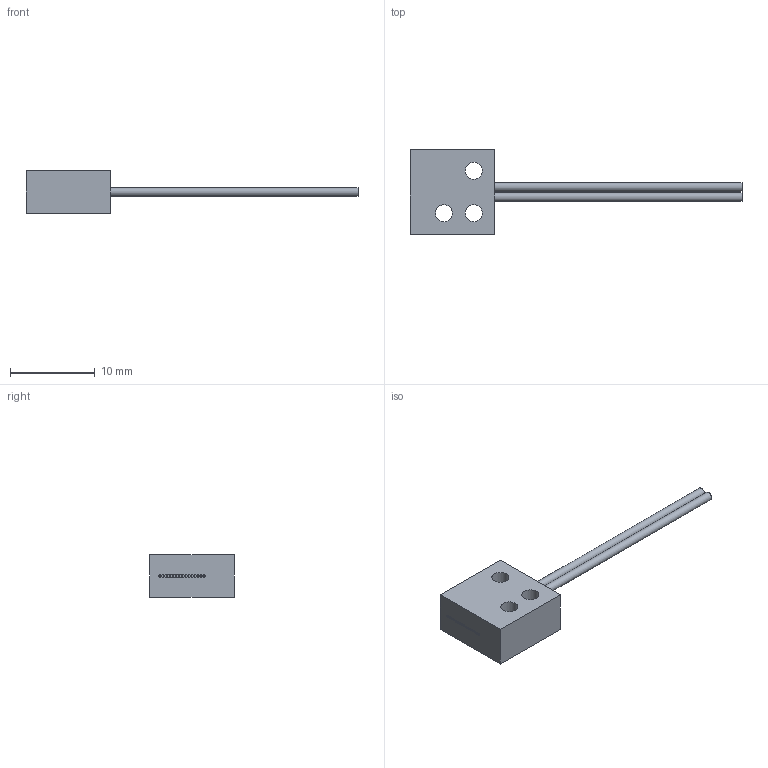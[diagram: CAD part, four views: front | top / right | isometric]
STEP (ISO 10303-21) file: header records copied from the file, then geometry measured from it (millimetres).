
FILE_DESCRIPTION(/* description */ (''),/* implementation_level */ '2;1');
FILE_NAME(/* name */ 'web_kf_et_10ml_20.stp',/* time_stamp */ '2013-01-10T10:31:48+01:00',/* author */ (''),/* organization */ (''),/* preprocessor_version */ 'ST-DEVELOPER v11',/* originating_system */ 'SIEMENS UGS NX 6.0',/* authorisation */ '');
FILE_SCHEMA (('CONFIG_CONTROL_DESIGN'));
Length unit declared in the file: millimetre
Products named in the file (1): 003813_00.0
Bounding box: 39.1 x 10 x 5 mm (x, y, z)
Volume: 498.5 mm3; surface area: 659.6 mm2
Topology: 1 solids, 1 shells, 76 faces, 213 edges, 142 vertices
Faces by surface type: plane 40, cylinder 36
Full cylindrical faces by diameter (mm): 1 x2, 2 x3
Entity records: 2542 total; most frequent: DIRECTION 434, CARTESIAN_POINT 427, ORIENTED_EDGE 416, EDGE_CURVE 208, AXIS2_PLACEMENT_3D 149, VERTEX_POINT 142, LINE 136, VECTOR 136
